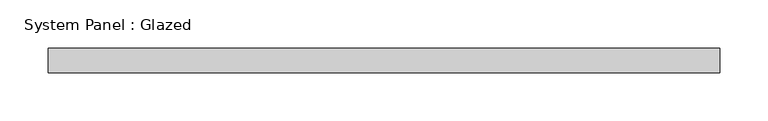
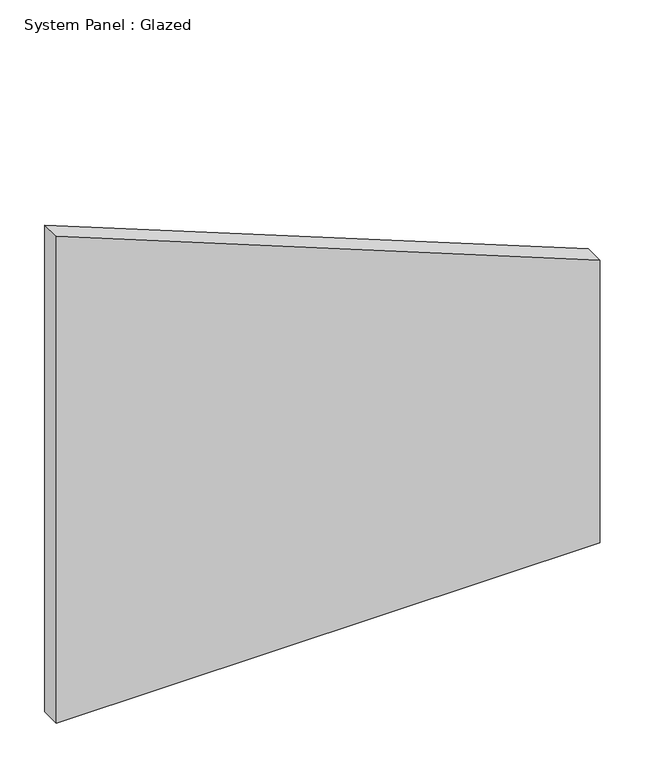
"""IFC4 building model written with IfcOpenShell, lengths in millimetres: plate geometry, System Panel : Glazed."""

from ifc_helpers import new_model, si_unit, point, frame, frame_2d, origin, place, context, project, spatial, polyline, circle_curve, trimmed, segment, composite_curve, outline, extrude, source, transform, mapped, element, save


def system_panel_glazed_499409c8(model_context):
    return source(origin(), model_context, "Body", "SweptSolid", [
        extrude(outline(composite_curve([segment(polyline([(0.0, -349.1631377), (0.0, 349.1631377), (383.547385, 349.1631377)]), True, "CONTINUOUS"), segment(trimmed(circle_curve(frame_2d((-2861.0640133, -1341.4822449)), 3658.6588985), [point((383.547385, 349.1631377))], [point((660.4538022, -349.1631377))], False, "CARTESIAN"), True, "CONTINUOUS"), segment(polyline([(660.4538022, -349.1631377), (0.0, -349.1631377)]), True, "CONTINUOUS")], self_intersect=False)), frame((0.0, 19.05, 0.0), z_axis=(0.0, 1.0, 0.0), x_axis=(0.0, 0.0, 1.0)), (0.0, 0.0, 1.0), 25.4),
    ])


if __name__ == "__main__":
    model = new_model("IFC4")
    model_context = context("Model", 3, world=origin())
    ifc_project = project(units=[si_unit("LENGTHUNIT", "METRE", prefix="MILLI")], contexts=[model_context])
    site = spatial("IfcSite", under=ifc_project)
    building = spatial("IfcBuilding", under=site)
    placement = place(None, origin())
    system_panel_glazed_shape = system_panel_glazed_499409c8(model_context)
    element("IfcPlate", 1, ObjectType="System Panel : Glazed", at=placement, inside=building, context=model_context, shape_type="MappedRepresentation", body=[
        mapped(system_panel_glazed_shape, transform((0.0, 0.0, 0.0), x_axis=(1.0, 0.0, 0.0), y_axis=(0.0, 1.0, 0.0), z_axis=(0.0, 0.0, 1.0))),
    ])
    save(model, "model.ifc")
